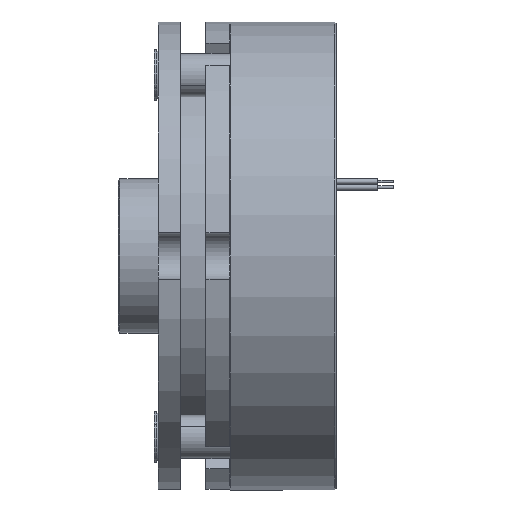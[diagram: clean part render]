
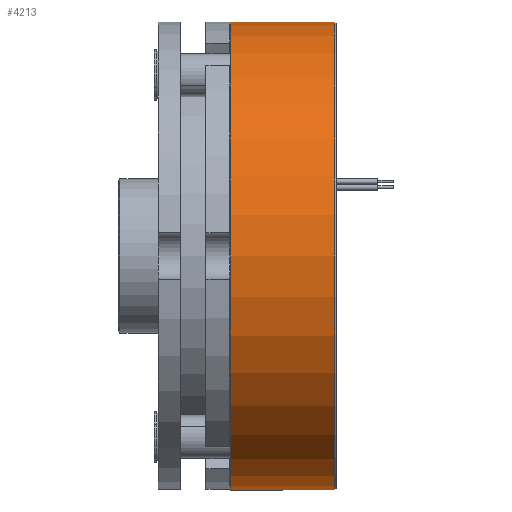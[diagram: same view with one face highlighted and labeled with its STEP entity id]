
A CAD part, front view. The second image highlights one B-rep face of the part: STEP entity #4213.
In plain terms, the highlighted cylindrical face has radius 73.5 mm (diameter 147 mm), a partial arc.
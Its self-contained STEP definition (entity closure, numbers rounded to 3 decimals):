
#16 = CIRCLE ( 'NONE', #3676, 73.5 ) ;
#111 = DIRECTION ( 'NONE',  ( 0., 0., 1. ) ) ;
#165 = CARTESIAN_POINT ( 'NONE',  ( 0., 0., 0. ) ) ;
#171 = EDGE_LOOP ( 'NONE', ( #1504, #3438, #1624, #2167 ) ) ;
#448 = CIRCLE ( 'NONE', #3700, 73.5 ) ;
#666 = CARTESIAN_POINT ( 'NONE',  ( 32.8, 0., 73.5 ) ) ;
#759 = LINE ( 'NONE', #2608, #4141 ) ;
#841 = EDGE_CURVE ( 'NONE', #2201, #1508, #759, .T. ) ;
#1104 = DIRECTION ( 'NONE',  ( -1., 0., 0. ) ) ;
#1208 = VERTEX_POINT ( 'NONE', #3726 ) ;
#1237 = LINE ( 'NONE', #3732, #2952 ) ;
#1276 = CARTESIAN_POINT ( 'NONE',  ( 32.8, 0., -73.5 ) ) ;
#1504 = ORIENTED_EDGE ( 'NONE', *, *, #841, .F. ) ;
#1508 = VERTEX_POINT ( 'NONE', #2723 ) ;
#1624 = ORIENTED_EDGE ( 'NONE', *, *, #3777, .T. ) ;
#1832 = CARTESIAN_POINT ( 'NONE',  ( 32.8, 0., 0. ) ) ;
#1860 = DIRECTION ( 'NONE',  ( -1., 0., 0. ) ) ;
#1901 = DIRECTION ( 'NONE',  ( 0., 0., 1. ) ) ;
#2167 = ORIENTED_EDGE ( 'NONE', *, *, #3246, .F. ) ;
#2201 = VERTEX_POINT ( 'NONE', #1276 ) ;
#2208 = DIRECTION ( 'NONE',  ( -1., 0., 0. ) ) ;
#2558 = CYLINDRICAL_SURFACE ( 'NONE', #3017, 73.5 ) ;
#2608 = CARTESIAN_POINT ( 'NONE',  ( 0., 0., -73.5 ) ) ;
#2723 = CARTESIAN_POINT ( 'NONE',  ( 0., 0., -73.5 ) ) ;
#2905 = FACE_OUTER_BOUND ( 'NONE', #171, .T. ) ;
#2952 = VECTOR ( 'NONE', #1104, 1000. ) ;
#3017 = AXIS2_PLACEMENT_3D ( 'NONE', #165, #2208, #111 ) ;
#3132 = CARTESIAN_POINT ( 'NONE',  ( 0., 0., 0. ) ) ;
#3157 = DIRECTION ( 'NONE',  ( 0., 0., 1. ) ) ;
#3233 = DIRECTION ( 'NONE',  ( -1., 0., 0. ) ) ;
#3246 = EDGE_CURVE ( 'NONE', #1508, #1208, #448, .T. ) ;
#3350 = VERTEX_POINT ( 'NONE', #666 ) ;
#3438 = ORIENTED_EDGE ( 'NONE', *, *, #3891, .T. ) ;
#3676 = AXIS2_PLACEMENT_3D ( 'NONE', #1832, #1860, #1901 ) ;
#3700 = AXIS2_PLACEMENT_3D ( 'NONE', #3132, #3233, #3157 ) ;
#3726 = CARTESIAN_POINT ( 'NONE',  ( 0., 0., 73.5 ) ) ;
#3732 = CARTESIAN_POINT ( 'NONE',  ( 0., 0., 73.5 ) ) ;
#3777 = EDGE_CURVE ( 'NONE', #3350, #1208, #1237, .T. ) ;
#3891 = EDGE_CURVE ( 'NONE', #2201, #3350, #16, .T. ) ;
#4141 = VECTOR ( 'NONE', #4221, 1000. ) ;
#4213 = ADVANCED_FACE ( 'NONE', ( #2905 ), #2558, .T. ) ;
#4221 = DIRECTION ( 'NONE',  ( -1., 0., 0. ) ) ;
